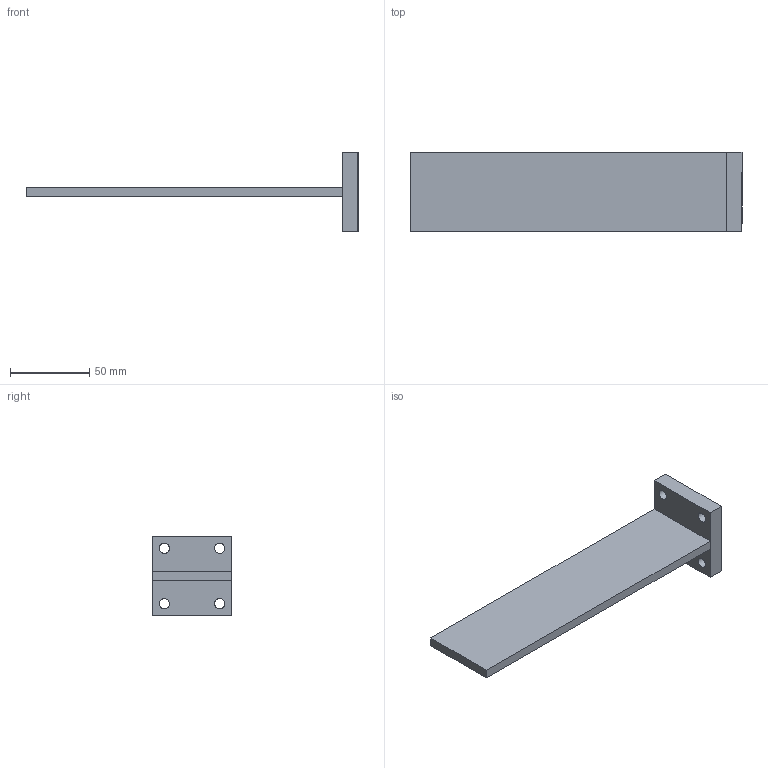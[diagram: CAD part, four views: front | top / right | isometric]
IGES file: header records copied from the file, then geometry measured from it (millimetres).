
Global section: file name: 03.03-C; native system: Autodesk Inventor 2014; preprocessor: unknown; author: Stefano; date: 20150331.110425; units: millimetre
Bounding box: 210 x 50 x 50 mm (x, y, z)
Volume: 83672.4 mm3; surface area: 30551.7 mm2
Topology: 2 solids, 2 shells, 16 faces, 40 edges, 28 vertices
Faces by surface type: bspline 16
